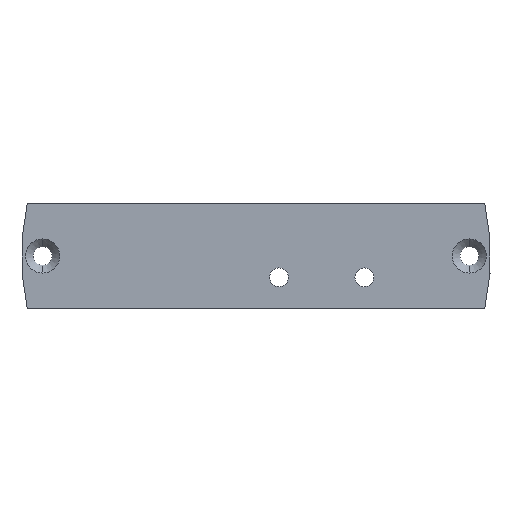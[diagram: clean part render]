
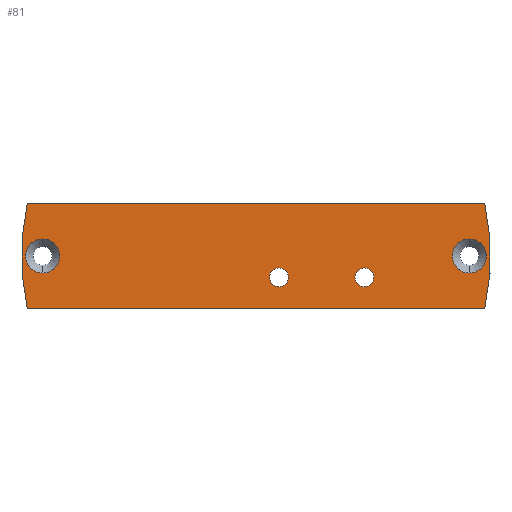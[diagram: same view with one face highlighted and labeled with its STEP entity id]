
A CAD part, top view. The second image highlights one B-rep face of the part: STEP entity #81.
In plain terms, the highlighted planar face has unit normal (0, 0, 1).
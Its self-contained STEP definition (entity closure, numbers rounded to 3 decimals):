
#81=ADVANCED_FACE('',(#144,#145,#146,#147,#111),#323,.T.);
#111=FACE_OUTER_BOUND('',#157,.F.);
#144=FACE_BOUND('',#153,.F.);
#145=FACE_BOUND('',#154,.F.);
#146=FACE_BOUND('',#155,.F.);
#147=FACE_BOUND('',#156,.F.);
#153=EDGE_LOOP('',(#198,#199));
#154=EDGE_LOOP('',(#200,#201));
#155=EDGE_LOOP('',(#202,#203));
#156=EDGE_LOOP('',(#204,#205));
#157=EDGE_LOOP('',(#206,#207,#208,#209));
#198=ORIENTED_EDGE('',*,*,#395,.T.);
#199=ORIENTED_EDGE('',*,*,#394,.T.);
#200=ORIENTED_EDGE('',*,*,#403,.T.);
#201=ORIENTED_EDGE('',*,*,#402,.T.);
#202=ORIENTED_EDGE('',*,*,#399,.T.);
#203=ORIENTED_EDGE('',*,*,#398,.T.);
#204=ORIENTED_EDGE('',*,*,#391,.T.);
#205=ORIENTED_EDGE('',*,*,#390,.T.);
#206=ORIENTED_EDGE('',*,*,#410,.F.);
#207=ORIENTED_EDGE('',*,*,#411,.F.);
#208=ORIENTED_EDGE('',*,*,#412,.F.);
#209=ORIENTED_EDGE('',*,*,#413,.F.);
#323=PLANE('',#573);
#328=LINE('',#833,#360);
#329=LINE('',#835,#361);
#360=VECTOR('',#645,53.63);
#361=VECTOR('',#648,53.63);
#390=EDGE_CURVE('',#533,#532,#458,.T.);
#391=EDGE_CURVE('',#532,#533,#459,.T.);
#394=EDGE_CURVE('',#529,#528,#462,.T.);
#395=EDGE_CURVE('',#528,#529,#463,.T.);
#398=EDGE_CURVE('',#525,#524,#466,.T.);
#399=EDGE_CURVE('',#524,#525,#467,.T.);
#402=EDGE_CURVE('',#521,#520,#470,.T.);
#403=EDGE_CURVE('',#520,#521,#471,.T.);
#410=EDGE_CURVE('',#513,#512,#476,.T.);
#411=EDGE_CURVE('',#511,#513,#328,.T.);
#412=EDGE_CURVE('',#510,#511,#477,.T.);
#413=EDGE_CURVE('',#512,#510,#329,.T.);
#458=CIRCLE('',#536,1.1);
#459=CIRCLE('',#537,1.1);
#462=CIRCLE('',#540,1.1);
#463=CIRCLE('',#541,1.1);
#466=CIRCLE('',#544,2.);
#467=CIRCLE('',#545,2.);
#470=CIRCLE('',#548,2.);
#471=CIRCLE('',#549,2.);
#476=CIRCLE('',#554,27.5);
#477=CIRCLE('',#555,27.5);
#510=VERTEX_POINT('',#788);
#511=VERTEX_POINT('',#789);
#512=VERTEX_POINT('',#790);
#513=VERTEX_POINT('',#791);
#520=VERTEX_POINT('',#798);
#521=VERTEX_POINT('',#799);
#524=VERTEX_POINT('',#802);
#525=VERTEX_POINT('',#803);
#528=VERTEX_POINT('',#806);
#529=VERTEX_POINT('',#807);
#532=VERTEX_POINT('',#810);
#533=VERTEX_POINT('',#811);
#536=AXIS2_PLACEMENT_3D('',#812,#605,#606);
#537=AXIS2_PLACEMENT_3D('',#813,#607,#608);
#540=AXIS2_PLACEMENT_3D('',#816,#613,#614);
#541=AXIS2_PLACEMENT_3D('',#817,#615,#616);
#544=AXIS2_PLACEMENT_3D('',#820,#621,#622);
#545=AXIS2_PLACEMENT_3D('',#821,#623,#624);
#548=AXIS2_PLACEMENT_3D('',#824,#629,#630);
#549=AXIS2_PLACEMENT_3D('',#825,#631,#632);
#554=AXIS2_PLACEMENT_3D('',#832,#643,#644);
#555=AXIS2_PLACEMENT_3D('',#834,#646,#647);
#573=AXIS2_PLACEMENT_3D('',#881,#711,#712);
#605=DIRECTION('',(0.,0.,1.));
#606=DIRECTION('',(0.,1.,0.));
#607=DIRECTION('',(0.,0.,1.));
#608=DIRECTION('',(0.,-1.,0.));
#613=DIRECTION('',(0.,0.,1.));
#614=DIRECTION('',(0.,1.,0.));
#615=DIRECTION('',(0.,0.,1.));
#616=DIRECTION('',(0.,-1.,0.));
#621=DIRECTION('',(0.,0.,1.));
#622=DIRECTION('',(0.,1.,0.));
#623=DIRECTION('',(0.,0.,1.));
#624=DIRECTION('',(0.,-1.,0.));
#629=DIRECTION('',(0.,0.,1.));
#630=DIRECTION('',(0.,1.,0.));
#631=DIRECTION('',(0.,0.,1.));
#632=DIRECTION('',(0.,-1.,0.));
#643=DIRECTION('',(0.,0.,1.));
#644=DIRECTION('',(0.975,-0.222,0.));
#645=DIRECTION('',(1.,0.,0.));
#646=DIRECTION('',(0.,0.,1.));
#647=DIRECTION('',(-0.975,0.222,0.));
#648=DIRECTION('',(-1.,0.,0.));
#711=DIRECTION('',(0.,0.,1.));
#712=DIRECTION('',(-1.,0.,0.));
#788=CARTESIAN_POINT('',(-230.072,-7.23,-715.436));
#789=CARTESIAN_POINT('',(-230.072,-19.43,-715.436));
#790=CARTESIAN_POINT('',(-176.442,-7.23,-715.436));
#791=CARTESIAN_POINT('',(-176.442,-19.43,-715.436));
#798=CARTESIAN_POINT('',(-228.257,-15.33,-715.436));
#799=CARTESIAN_POINT('',(-228.257,-11.33,-715.436));
#802=CARTESIAN_POINT('',(-178.257,-15.33,-715.436));
#803=CARTESIAN_POINT('',(-178.257,-11.33,-715.436));
#806=CARTESIAN_POINT('',(-200.563,-16.93,-715.436));
#807=CARTESIAN_POINT('',(-200.563,-14.73,-715.436));
#810=CARTESIAN_POINT('',(-190.563,-16.93,-715.436));
#811=CARTESIAN_POINT('',(-190.563,-14.73,-715.436));
#812=CARTESIAN_POINT('',(-190.563,-15.83,-715.436));
#813=CARTESIAN_POINT('',(-190.563,-15.83,-715.436));
#816=CARTESIAN_POINT('',(-200.563,-15.83,-715.436));
#817=CARTESIAN_POINT('',(-200.563,-15.83,-715.436));
#820=CARTESIAN_POINT('',(-178.257,-13.33,-715.436));
#821=CARTESIAN_POINT('',(-178.257,-13.33,-715.436));
#824=CARTESIAN_POINT('',(-228.257,-13.33,-715.436));
#825=CARTESIAN_POINT('',(-228.257,-13.33,-715.436));
#832=CARTESIAN_POINT('',(-203.257,-13.33,-715.436));
#833=CARTESIAN_POINT('',(-230.072,-19.43,-715.436));
#834=CARTESIAN_POINT('',(-203.257,-13.33,-715.436));
#835=CARTESIAN_POINT('',(-176.442,-7.23,-715.436));
#881=CARTESIAN_POINT('',(-175.164,-6.67,-715.436));
